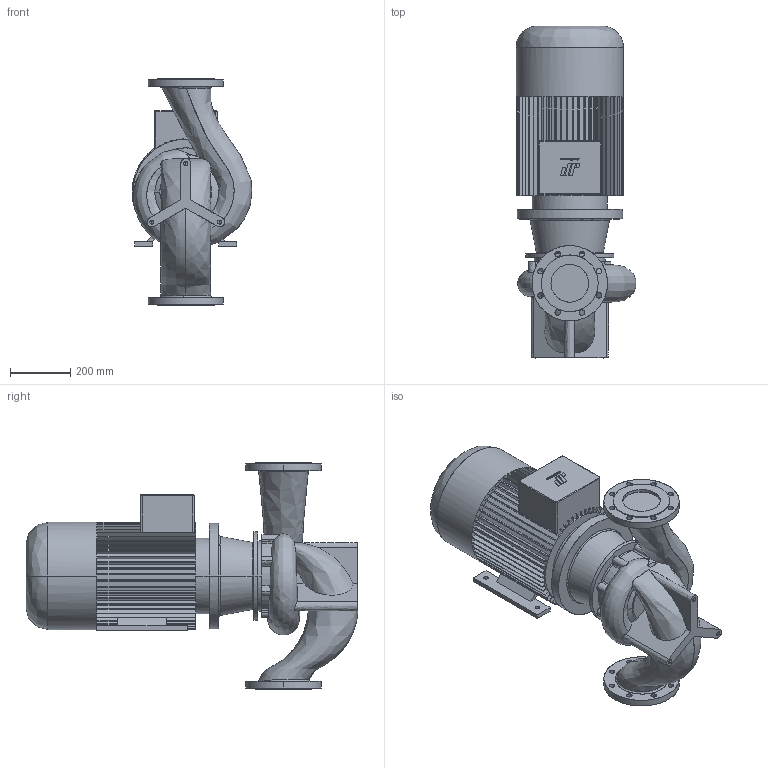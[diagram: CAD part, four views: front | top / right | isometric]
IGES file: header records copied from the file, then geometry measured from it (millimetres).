
Start section: CombiLine
Global section: file name: CLB_125-200_IEC180M_ND10.igs; native system:  By UGS Corp.; preprocessor: XPlus GENERIC/IGES 3.0; author: Stageplaats; organization: Johnson Pump Water B.V.; date: 20070717.133600; units: millimetre
Bounding box: 397.16 x 1101 x 750 mm (x, y, z)
Surface area: 2707605.9 mm2 (no closed solid volume)
Topology: 0 solids, 0 shells, 604 faces, 3661 edges, 3655 vertices
Faces by surface type: bspline 604
